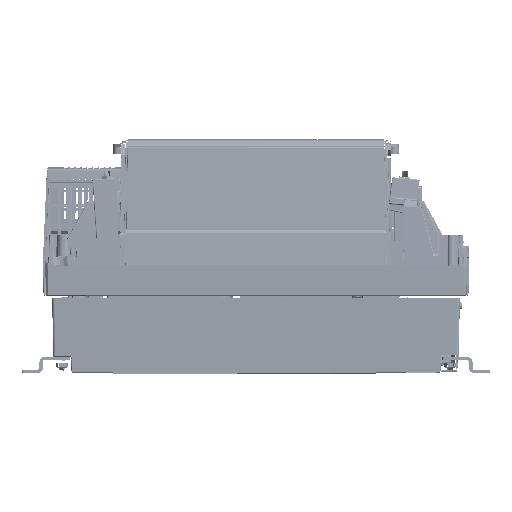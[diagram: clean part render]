
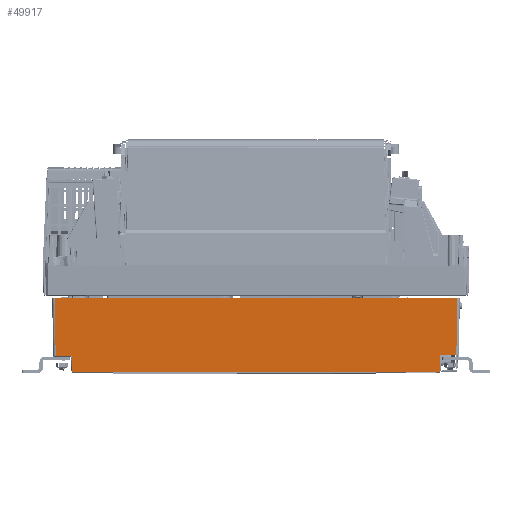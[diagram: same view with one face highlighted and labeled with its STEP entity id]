
A CAD part, left-side view. The second image highlights one B-rep face of the part: STEP entity #49917.
In plain terms, the highlighted planar face has unit normal (-0.999, 0, -0.035).
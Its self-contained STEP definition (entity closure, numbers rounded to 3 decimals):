
#3299=DIRECTION('',(0.,1.,0.));
#3300=VECTOR('',#3299,19.212);
#3301=CARTESIAN_POINT('',(-122.426,219.199,
-106.435));
#3302=LINE('',#3301,#3300);
#3303=DIRECTION('',(0.035,-0.017,-0.999));
#3304=VECTOR('',#3303,69.558);
#3305=CARTESIAN_POINT('',(-124.853,239.625,
-36.93));
#3306=LINE('',#3305,#3304);
#3307=DIRECTION('',(0.,-1.,0.));
#3308=VECTOR('',#3307,479.266);
#3309=CARTESIAN_POINT('',(-124.853,239.625,
-36.93));
#3310=LINE('',#3309,#3308);
#3311=DIRECTION('',(-0.035,-0.017,0.999));
#3312=VECTOR('',#3311,68.557);
#3313=CARTESIAN_POINT('',(-122.461,-238.447,
-105.435));
#3314=LINE('',#3313,#3312);
#3315=DIRECTION('',(0.,1.,0.));
#3316=VECTOR('',#3315,19.213);
#3317=CARTESIAN_POINT('',(-122.461,-238.447,
-105.435));
#3318=LINE('',#3317,#3316);
#3319=DIRECTION('',(0.,1.,0.));
#3320=VECTOR('',#3319,437.065);
#3321=CARTESIAN_POINT('',(-121.759,-218.532,
-125.534));
#3322=LINE('',#3321,#3320);
#25159=CARTESIAN_POINT('',(-122.426,238.411,
-106.435));
#25175=CARTESIAN_POINT('',(-124.853,239.625,
-36.93));
#25186=CARTESIAN_POINT('',(-124.853,-239.642,
-36.93));
#27972=CARTESIAN_POINT('',(-122.426,219.199,
-106.435));
#27974=DIRECTION('',(0.035,-0.035,-0.999));
#27975=VECTOR('',#27974,19.122);
#27976=CARTESIAN_POINT('',(-122.426,219.199,
-106.435));
#27977=LINE('',#27976,#27975);
#28369=DIRECTION('',(-0.035,-0.035,0.999));
#28370=VECTOR('',#28369,20.123);
#28371=CARTESIAN_POINT('',(-121.759,-218.532,
-125.534));
#28372=LINE('',#28371,#28370);
#38587=VERTEX_POINT('',#25175);
#38606=VERTEX_POINT('',#25186);
#38953=VERTEX_POINT('',#25159);
#38954=CARTESIAN_POINT('',(-122.461,-238.447,
-105.435));
#38955=CARTESIAN_POINT('',(-122.461,-219.234,
-105.435));
#38956=VERTEX_POINT('',#38954);
#38957=VERTEX_POINT('',#38955);
#40237=CARTESIAN_POINT('',(-121.759,218.532,
-125.534));
#40238=VERTEX_POINT('',#40237);
#40239=CARTESIAN_POINT('',(-121.759,-218.532,
-125.534));
#40240=VERTEX_POINT('',#40239);
#47366=VERTEX_POINT('',#27972);
#49894=CARTESIAN_POINT('',(-121.778,-249.372,-125.));
#49895=DIRECTION('',(-0.999,0.,-0.035));
#49896=DIRECTION('',(0.,-1.,0.));
#49897=AXIS2_PLACEMENT_3D('',#49894,#49895,#49896);
#49898=PLANE('',#49897);
#49900=ORIENTED_EDGE('',*,*,#49899,.T.);
#49902=ORIENTED_EDGE('',*,*,#49901,.F.);
#49904=ORIENTED_EDGE('',*,*,#49903,.T.);
#49906=ORIENTED_EDGE('',*,*,#49905,.F.);
#49908=ORIENTED_EDGE('',*,*,#49907,.T.);
#49910=ORIENTED_EDGE('',*,*,#49909,.F.);
#49912=ORIENTED_EDGE('',*,*,#49911,.T.);
#49914=ORIENTED_EDGE('',*,*,#49913,.F.);
#49915=EDGE_LOOP('',(#49900,#49902,#49904,#49906,#49908,#49910,#49912,#49914));
#49916=FACE_OUTER_BOUND('',#49915,.F.);
#49917=ADVANCED_FACE('',(#49916),#49898,.T.);
#49899=EDGE_CURVE('',#47366,#38953,#3302,.T.);
#49901=EDGE_CURVE('',#38587,#38953,#3306,.T.);
#49903=EDGE_CURVE('',#38587,#38606,#3310,.T.);
#49905=EDGE_CURVE('',#38956,#38606,#3314,.T.);
#49907=EDGE_CURVE('',#38956,#38957,#3318,.T.);
#49909=EDGE_CURVE('',#40240,#38957,#28372,.T.);
#49911=EDGE_CURVE('',#40240,#40238,#3322,.T.);
#49913=EDGE_CURVE('',#47366,#40238,#27977,.T.);
